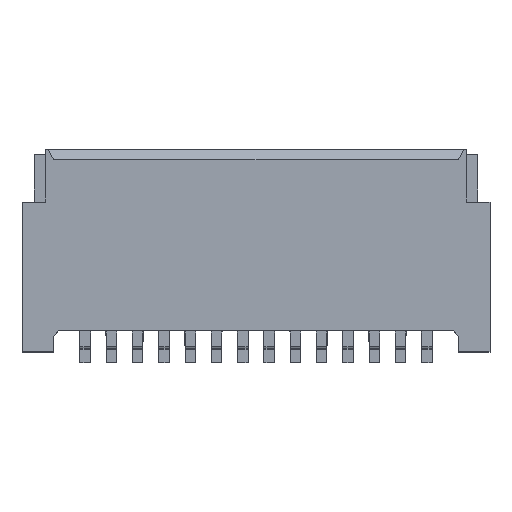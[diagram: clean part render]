
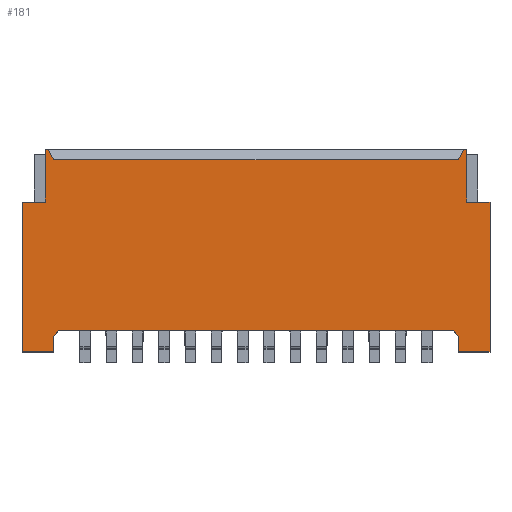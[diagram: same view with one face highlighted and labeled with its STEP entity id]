
A CAD part, top view. The second image highlights one B-rep face of the part: STEP entity #181.
In plain terms, the highlighted planar face has unit normal (0, 0, 1).
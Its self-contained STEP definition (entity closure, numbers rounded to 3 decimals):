
#5 = LINE ( 'NONE', #2156, #8143 ) ;
#73 = ORIENTED_EDGE ( 'NONE', *, *, #7014, .F. ) ;
#181 = ADVANCED_FACE ( 'NONE', ( #10018 ), #5461, .T. ) ;
#192 = ORIENTED_EDGE ( 'NONE', *, *, #9994, .F. ) ;
#397 = EDGE_CURVE ( 'NONE', #13474, #9345, #12904, .T. ) ;
#423 = CARTESIAN_POINT ( 'NONE',  ( -11.36, -3.55, 1.45 ) ) ;
#557 = CARTESIAN_POINT ( 'NONE',  ( -5.75, -1., 1.45 ) ) ;
#1256 = DIRECTION ( 'NONE',  ( 0., -1., 0. ) ) ;
#1274 = VECTOR ( 'NONE', #10161, 1000. ) ;
#1304 = DIRECTION ( 'NONE',  ( -1., 0., 0. ) ) ;
#1487 = LINE ( 'NONE', #7864, #3228 ) ;
#1613 = VERTEX_POINT ( 'NONE', #3198 ) ;
#1703 = LINE ( 'NONE', #13416, #4661 ) ;
#1713 = ORIENTED_EDGE ( 'NONE', *, *, #397, .T. ) ;
#2156 = CARTESIAN_POINT ( 'NONE',  ( -5.75, -3.85, 1.45 ) ) ;
#2286 = LINE ( 'NONE', #5010, #13308 ) ;
#2324 = CARTESIAN_POINT ( 'NONE',  ( -11.26, -3.45, 1.45 ) ) ;
#2391 = DIRECTION ( 'NONE',  ( -1., 0., 0. ) ) ;
#2525 = CARTESIAN_POINT ( 'NONE',  ( -3.05, -1., 1.45 ) ) ;
#2603 = DIRECTION ( 'NONE',  ( 0., -1., 0. ) ) ;
#2640 = VERTEX_POINT ( 'NONE', #13084 ) ;
#2667 = EDGE_CURVE ( 'NONE', #12884, #12063, #4734, .T. ) ;
#2802 = VERTEX_POINT ( 'NONE', #4748 ) ;
#3198 = CARTESIAN_POINT ( 'NONE',  ( -3.49, -1., 1.45 ) ) ;
#3228 = VECTOR ( 'NONE', #2391, 1000. ) ;
#3249 = CARTESIAN_POINT ( 'NONE',  ( -11.95, -1., 1.45 ) ) ;
#3426 = VERTEX_POINT ( 'NONE', #3607 ) ;
#3607 = CARTESIAN_POINT ( 'NONE',  ( -11.51, -1., 1.45 ) ) ;
#3769 = VECTOR ( 'NONE', #6705, 1000. ) ;
#4138 = CARTESIAN_POINT ( 'NONE',  ( -11.45, 0., 1.45 ) ) ;
#4177 = CARTESIAN_POINT ( 'NONE',  ( -11.36, -3.55, 1.45 ) ) ;
#4398 = CARTESIAN_POINT ( 'NONE',  ( -11.36, -1.925, 1.45 ) ) ;
#4639 = EDGE_CURVE ( 'NONE', #10625, #13474, #13908, .T. ) ;
#4661 = VECTOR ( 'NONE', #9232, 1000. ) ;
#4689 = EDGE_CURVE ( 'NONE', #2640, #4760, #10647, .T. ) ;
#4729 = DIRECTION ( 'NONE',  ( 0., 1., 0. ) ) ;
#4734 = LINE ( 'NONE', #5275, #10744 ) ;
#4748 = CARTESIAN_POINT ( 'NONE',  ( -3.05, -3.85, 1.45 ) ) ;
#4760 = VERTEX_POINT ( 'NONE', #7897 ) ;
#4794 = CARTESIAN_POINT ( 'NONE',  ( -11.95, -3.85, 1.45 ) ) ;
#4818 = CARTESIAN_POINT ( 'NONE',  ( -9.25, 0., 1.45 ) ) ;
#4980 = DIRECTION ( 'NONE',  ( 1., 0., 0. ) ) ;
#5010 = CARTESIAN_POINT ( 'NONE',  ( -3.49, -1.925, 1.45 ) ) ;
#5154 = VECTOR ( 'NONE', #7340, 1000. ) ;
#5248 = VECTOR ( 'NONE', #1304, 1000. ) ;
#5275 = CARTESIAN_POINT ( 'NONE',  ( -11.95, -1.925, 1.45 ) ) ;
#5461 = PLANE ( 'NONE',  #9271 ) ;
#5569 = DIRECTION ( 'NONE',  ( 0., 0., 1. ) ) ;
#5594 = EDGE_CURVE ( 'NONE', #2802, #13675, #1487, .T. ) ;
#6114 = CARTESIAN_POINT ( 'NONE',  ( -5.75, -3.45, 1.45 ) ) ;
#6165 = CARTESIAN_POINT ( 'NONE',  ( -3.49, 0., 1.45 ) ) ;
#6169 = DIRECTION ( 'NONE',  ( -0.447, 0.894, 0. ) ) ;
#6454 = VERTEX_POINT ( 'NONE', #2525 ) ;
#6470 = LINE ( 'NONE', #7966, #5248 ) ;
#6567 = VECTOR ( 'NONE', #13751, 1000. ) ;
#6647 = VECTOR ( 'NONE', #8072, 1000. ) ;
#6651 = DIRECTION ( 'NONE',  ( 1., 0., 0. ) ) ;
#6705 = DIRECTION ( 'NONE',  ( -1., 0., 0. ) ) ;
#7014 = EDGE_CURVE ( 'NONE', #6454, #2802, #11444, .T. ) ;
#7121 = VERTEX_POINT ( 'NONE', #6165 ) ;
#7144 = EDGE_CURVE ( 'NONE', #12830, #7121, #11429, .T. ) ;
#7167 = EDGE_CURVE ( 'NONE', #2640, #12830, #12634, .T. ) ;
#7169 = CARTESIAN_POINT ( 'NONE',  ( -3.05, -1.925, 1.45 ) ) ;
#7257 = EDGE_CURVE ( 'NONE', #3426, #12884, #7669, .T. ) ;
#7308 = ORIENTED_EDGE ( 'NONE', *, *, #10811, .T. ) ;
#7315 = VECTOR ( 'NONE', #4980, 1000. ) ;
#7340 = DIRECTION ( 'NONE',  ( 0., 1., 0. ) ) ;
#7454 = EDGE_CURVE ( 'NONE', #4760, #8613, #13132, .T. ) ;
#7589 = CARTESIAN_POINT ( 'NONE',  ( -3.55, 0., 1.45 ) ) ;
#7611 = EDGE_LOOP ( 'NONE', ( #8165, #192, #9929, #11212, #73, #10934, #10439, #8533, #12934, #7626, #12784, #7308, #11223, #13816, #11895, #13291, #9518, #1713 ) ) ;
#7626 = ORIENTED_EDGE ( 'NONE', *, *, #4689, .T. ) ;
#7669 = LINE ( 'NONE', #557, #12457 ) ;
#7803 = VECTOR ( 'NONE', #4729, 1000. ) ;
#7835 = VECTOR ( 'NONE', #6169, 1000. ) ;
#7864 = CARTESIAN_POINT ( 'NONE',  ( -9.25, -3.85, 1.45 ) ) ;
#7897 = CARTESIAN_POINT ( 'NONE',  ( -11.35, -0.2, 1.45 ) ) ;
#7962 = EDGE_CURVE ( 'NONE', #7121, #1613, #2286, .T. ) ;
#7966 = CARTESIAN_POINT ( 'NONE',  ( -5.75, 0., 1.45 ) ) ;
#7973 = LINE ( 'NONE', #8083, #7803 ) ;
#8072 = DIRECTION ( 'NONE',  ( 0., -1., 0. ) ) ;
#8083 = CARTESIAN_POINT ( 'NONE',  ( -3.64, -1.925, 1.45 ) ) ;
#8143 = VECTOR ( 'NONE', #12056, 1000. ) ;
#8144 = CARTESIAN_POINT ( 'NONE',  ( -3.625, -0.15, 1.45 ) ) ;
#8165 = ORIENTED_EDGE ( 'NONE', *, *, #10348, .T. ) ;
#8219 = EDGE_CURVE ( 'NONE', #12063, #10625, #5, .T. ) ;
#8269 = DIRECTION ( 'NONE',  ( -1., 0., 0. ) ) ;
#8352 = VECTOR ( 'NONE', #11449, 1000. ) ;
#8533 = ORIENTED_EDGE ( 'NONE', *, *, #7144, .F. ) ;
#8613 = VERTEX_POINT ( 'NONE', #4138 ) ;
#8781 = CARTESIAN_POINT ( 'NONE',  ( -3.64, -3.55, 1.45 ) ) ;
#8786 = VECTOR ( 'NONE', #2603, 1000. ) ;
#8839 = CARTESIAN_POINT ( 'NONE',  ( -11.36, -3.85, 1.45 ) ) ;
#9232 = DIRECTION ( 'NONE',  ( 1., 0., 0. ) ) ;
#9271 = AXIS2_PLACEMENT_3D ( 'NONE', #14212, #5569, #6651 ) ;
#9313 = CARTESIAN_POINT ( 'NONE',  ( -11.375, -0.15, 1.45 ) ) ;
#9345 = VERTEX_POINT ( 'NONE', #2324 ) ;
#9372 = DIRECTION ( 'NONE',  ( 0., -1., 0. ) ) ;
#9507 = EDGE_CURVE ( 'NONE', #1613, #6454, #1703, .T. ) ;
#9518 = ORIENTED_EDGE ( 'NONE', *, *, #4639, .T. ) ;
#9560 = EDGE_CURVE ( 'NONE', #11585, #3426, #10337, .T. ) ;
#9929 = ORIENTED_EDGE ( 'NONE', *, *, #11461, .F. ) ;
#9994 = EDGE_CURVE ( 'NONE', #10699, #11873, #13731, .T. ) ;
#10018 = FACE_OUTER_BOUND ( 'NONE', #7611, .T. ) ;
#10161 = DIRECTION ( 'NONE',  ( 0.447, 0.894, 0. ) ) ;
#10236 = LINE ( 'NONE', #6114, #7315 ) ;
#10337 = LINE ( 'NONE', #10506, #8786 ) ;
#10348 = EDGE_CURVE ( 'NONE', #9345, #11873, #10236, .T. ) ;
#10439 = ORIENTED_EDGE ( 'NONE', *, *, #7962, .F. ) ;
#10506 = CARTESIAN_POINT ( 'NONE',  ( -11.51, -1.925, 1.45 ) ) ;
#10625 = VERTEX_POINT ( 'NONE', #8839 ) ;
#10647 = LINE ( 'NONE', #11070, #3769 ) ;
#10699 = VERTEX_POINT ( 'NONE', #8781 ) ;
#10744 = VECTOR ( 'NONE', #1256, 1000. ) ;
#10811 = EDGE_CURVE ( 'NONE', #8613, #11585, #6470, .T. ) ;
#10934 = ORIENTED_EDGE ( 'NONE', *, *, #9507, .F. ) ;
#11070 = CARTESIAN_POINT ( 'NONE',  ( -5.75, -0.2, 1.45 ) ) ;
#11150 = DIRECTION ( 'NONE',  ( -0.707, 0.707, 0. ) ) ;
#11212 = ORIENTED_EDGE ( 'NONE', *, *, #5594, .F. ) ;
#11223 = ORIENTED_EDGE ( 'NONE', *, *, #9560, .T. ) ;
#11429 = LINE ( 'NONE', #4818, #8352 ) ;
#11444 = LINE ( 'NONE', #7169, #6647 ) ;
#11449 = DIRECTION ( 'NONE',  ( 1., 0., 0. ) ) ;
#11461 = EDGE_CURVE ( 'NONE', #13675, #10699, #7973, .T. ) ;
#11585 = VERTEX_POINT ( 'NONE', #12577 ) ;
#11873 = VERTEX_POINT ( 'NONE', #12039 ) ;
#11895 = ORIENTED_EDGE ( 'NONE', *, *, #2667, .T. ) ;
#12039 = CARTESIAN_POINT ( 'NONE',  ( -3.74, -3.45, 1.45 ) ) ;
#12056 = DIRECTION ( 'NONE',  ( 1., 0., 0. ) ) ;
#12063 = VERTEX_POINT ( 'NONE', #4794 ) ;
#12192 = CARTESIAN_POINT ( 'NONE',  ( -3.64, -3.55, 1.45 ) ) ;
#12457 = VECTOR ( 'NONE', #8269, 1000. ) ;
#12520 = VECTOR ( 'NONE', #11150, 1000. ) ;
#12577 = CARTESIAN_POINT ( 'NONE',  ( -11.51, 0., 1.45 ) ) ;
#12634 = LINE ( 'NONE', #8144, #1274 ) ;
#12784 = ORIENTED_EDGE ( 'NONE', *, *, #7454, .T. ) ;
#12830 = VERTEX_POINT ( 'NONE', #7589 ) ;
#12884 = VERTEX_POINT ( 'NONE', #3249 ) ;
#12904 = LINE ( 'NONE', #423, #6567 ) ;
#12934 = ORIENTED_EDGE ( 'NONE', *, *, #7167, .F. ) ;
#13084 = CARTESIAN_POINT ( 'NONE',  ( -3.65, -0.2, 1.45 ) ) ;
#13132 = LINE ( 'NONE', #9313, #7835 ) ;
#13291 = ORIENTED_EDGE ( 'NONE', *, *, #8219, .T. ) ;
#13308 = VECTOR ( 'NONE', #9372, 1000. ) ;
#13416 = CARTESIAN_POINT ( 'NONE',  ( -9.25, -1., 1.45 ) ) ;
#13474 = VERTEX_POINT ( 'NONE', #4177 ) ;
#13614 = CARTESIAN_POINT ( 'NONE',  ( -3.64, -3.85, 1.45 ) ) ;
#13675 = VERTEX_POINT ( 'NONE', #13614 ) ;
#13731 = LINE ( 'NONE', #12192, #12520 ) ;
#13751 = DIRECTION ( 'NONE',  ( 0.707, 0.707, 0. ) ) ;
#13816 = ORIENTED_EDGE ( 'NONE', *, *, #7257, .T. ) ;
#13908 = LINE ( 'NONE', #4398, #5154 ) ;
#14212 = CARTESIAN_POINT ( 'NONE',  ( -11.95, -3.85, 1.45 ) ) ;
